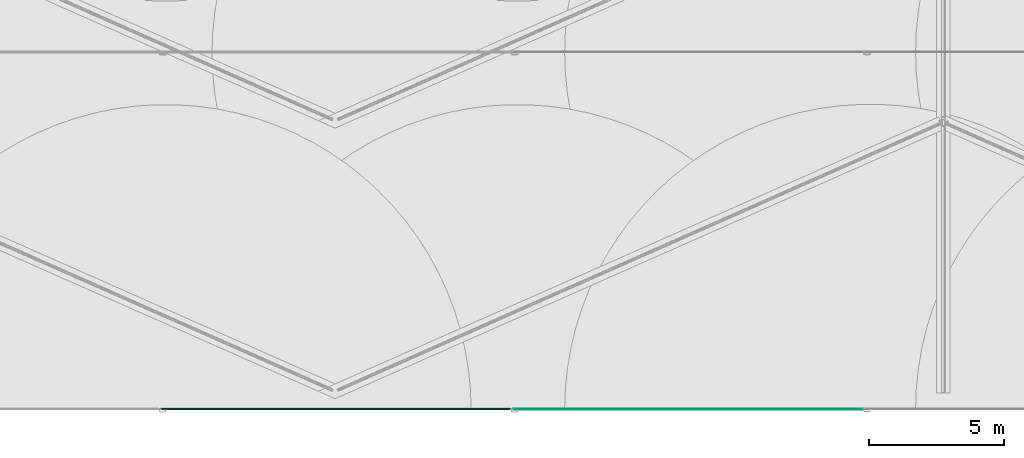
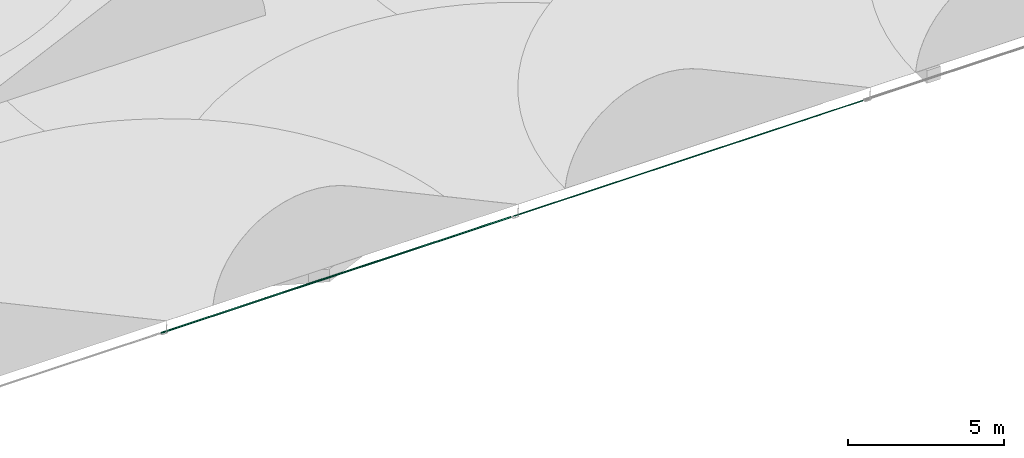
# One storey, part 24 of 166: 2 flow segments.
"""IFC2X3 building model written with IfcOpenShell, lengths in metres."""

from ifc_helpers import new_model, entity, si_unit, converted_unit, direction, frame, frame_2d, origin, place, context, subcontext, project, spatial, circle, extrude, type_object, element, save


model = new_model("IFC2X3")

# Units and contexts
model_context = context("Model", 3, precision=1e-05, world=origin(), true_north=direction((6.123233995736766e-17, 1.0)))
body_context = subcontext(model_context, "Body", "Model", "MODEL_VIEW")
ifc_project = project(units=[si_unit("LENGTHUNIT", "METRE"), converted_unit("PLANEANGLEUNIT", "DEGREE", entity("IfcPlaneAngleMeasure", 0.017453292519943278), si_unit("PLANEANGLEUNIT", "RADIAN"), dimensions=[0, 0, 0, 0, 0, 0, 0]), si_unit("AREAUNIT", "SQUARE_METRE")], contexts=[model_context])

# Site, building, storey
site_placement = place(None, origin())
site = spatial("IfcSite", under=ifc_project, at=site_placement, Name="Default", CompositionType="ELEMENT")
building_placement = place(site_placement, origin())
building = spatial("IfcBuilding", under=site, at=building_placement, Name="CASA DE ACOLHIDA PARA IDOSOS", CompositionType="ELEMENT")
storey_placement = place(building_placement, frame((0.0, 0.0, -1.7499999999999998)))
storey = spatial("IfcBuildingStorey", under=building, at=storey_placement, Name="IMPLANTAÇÃO DRENAGEM", CompositionType="ELEMENT", Elevation=-1.7499999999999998)

# Flow segments
pipe_segment_type = type_object("IfcPipeSegmentType", Name="Tipos de tubos:AF_Tubo Marrom Soldável", PredefinedType="NOTDEFINED")
flow_segment_1_placement = place(storey_placement, origin())
element("IfcFlowSegment", 1, at=flow_segment_1_placement, inside=storey, type_object=pipe_segment_type, Name="Tipos de tubos:AF_Tubo Marrom Soldável", ObjectType="Tipos de tubos:AF_Tubo Marrom Soldável", context=body_context, shape_type="SweptSolid", body=[
    extrude(circle(Radius=0.025, at=frame_2d((0.0, -2.707167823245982e-16), x_axis=(1.0, 0.0))), frame((-5.958348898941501, -16.74505792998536, -0.19999999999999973), z_axis=(1.0, 0.0, 0.0), x_axis=(0.0, -1.0, 0.0)), (0.0, 0.0, 1.0), 12.9348),
])
flow_segment_2_placement = place(storey_placement, origin())
element("IfcFlowSegment", 2, at=flow_segment_2_placement, inside=storey, type_object=pipe_segment_type, Name="Tipos de tubos:AF_Tubo Marrom Soldável", ObjectType="Tipos de tubos:AF_Tubo Marrom Soldável", context=body_context, shape_type="SweptSolid", body=[
    extrude(circle(Radius=0.016, at=frame_2d((0.0, -2.707167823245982e-16), x_axis=(1.0, 0.0))), frame((7.082445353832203, -16.74505792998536, -0.19999999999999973), z_axis=(1.0, 0.0, 0.0), x_axis=(0.0, -1.0, 0.0)), (0.0, 0.0, 1.0), 12.933905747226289),
])

save(model, "model.ifc")
